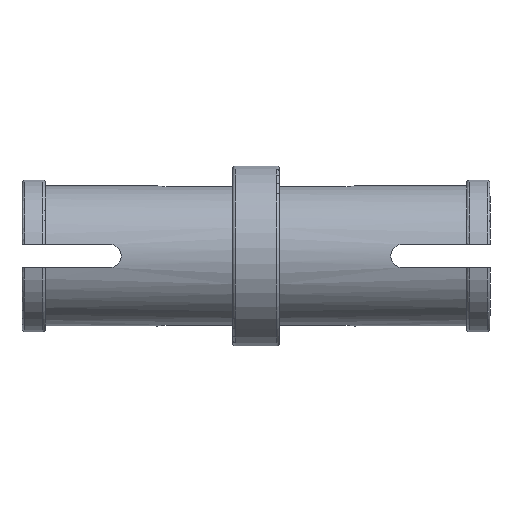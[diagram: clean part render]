
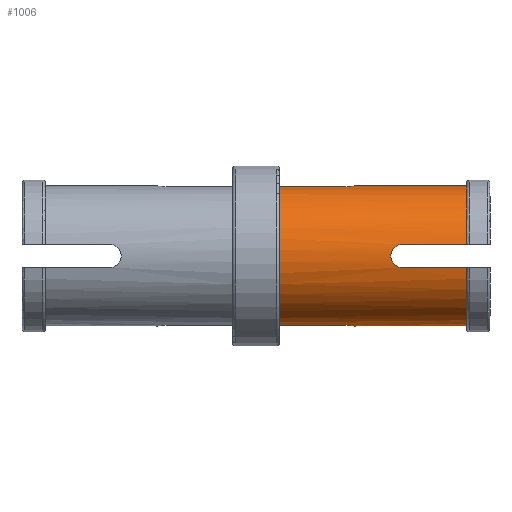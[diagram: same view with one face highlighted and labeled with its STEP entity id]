
A CAD part, front view. The second image highlights one B-rep face of the part: STEP entity #1006.
In plain terms, the highlighted cylindrical face has radius 2.4 mm (diameter 4.8 mm), a full revolution.
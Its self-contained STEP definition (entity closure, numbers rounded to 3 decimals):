
#40=B_SPLINE_CURVE_WITH_KNOTS('',3,(#1566,#1567,#1568,#1569,#1570),
 .UNSPECIFIED.,.F.,.F.,(4,1,4),(0.,0.001,0.001),
 .UNSPECIFIED.);
#41=B_SPLINE_CURVE_WITH_KNOTS('',3,(#1578,#1579,#1580,#1581,#1582),
 .UNSPECIFIED.,.F.,.F.,(4,1,4),(0.,0.001,0.001),
 .UNSPECIFIED.);
#42=B_SPLINE_CURVE_WITH_KNOTS('',3,(#1587,#1588,#1589,#1590,#1591),
 .UNSPECIFIED.,.F.,.F.,(4,1,4),(0.,0.001,0.001),
 .UNSPECIFIED.);
#43=B_SPLINE_CURVE_WITH_KNOTS('',3,(#1596,#1597,#1598,#1599,#1600),
 .UNSPECIFIED.,.F.,.F.,(4,1,4),(0.,0.001,0.001),
 .UNSPECIFIED.);
#76=CYLINDRICAL_SURFACE('',#1091,2.4);
#90=CIRCLE('',#1065,2.4);
#105=CIRCLE('',#1087,2.4);
#107=CIRCLE('',#1090,2.4);
#108=CIRCLE('',#1092,2.4);
#181=ORIENTED_EDGE('',*,*,#440,.F.);
#182=ORIENTED_EDGE('',*,*,#492,.T.);
#183=ORIENTED_EDGE('',*,*,#493,.T.);
#184=ORIENTED_EDGE('',*,*,#494,.T.);
#185=ORIENTED_EDGE('',*,*,#495,.F.);
#186=ORIENTED_EDGE('',*,*,#496,.T.);
#187=ORIENTED_EDGE('',*,*,#497,.T.);
#188=ORIENTED_EDGE('',*,*,#498,.T.);
#189=ORIENTED_EDGE('',*,*,#499,.F.);
#190=ORIENTED_EDGE('',*,*,#500,.F.);
#191=ORIENTED_EDGE('',*,*,#501,.F.);
#192=ORIENTED_EDGE('',*,*,#491,.T.);
#193=ORIENTED_EDGE('',*,*,#502,.F.);
#194=ORIENTED_EDGE('',*,*,#503,.F.);
#195=ORIENTED_EDGE('',*,*,#504,.F.);
#196=ORIENTED_EDGE('',*,*,#487,.T.);
#440=EDGE_CURVE('',#596,#593,#90,.T.);
#487=EDGE_CURVE('',#640,#642,#105,.T.);
#491=EDGE_CURVE('',#644,#646,#107,.T.);
#492=EDGE_CURVE('',#596,#647,#725,.F.);
#493=EDGE_CURVE('',#647,#648,#40,.T.);
#494=EDGE_CURVE('',#648,#649,#726,.T.);
#495=EDGE_CURVE('',#650,#649,#108,.T.);
#496=EDGE_CURVE('',#650,#651,#727,.F.);
#497=EDGE_CURVE('',#651,#652,#41,.T.);
#498=EDGE_CURVE('',#652,#593,#728,.T.);
#499=EDGE_CURVE('',#653,#642,#729,.F.);
#500=EDGE_CURVE('',#654,#653,#42,.T.);
#501=EDGE_CURVE('',#644,#654,#730,.T.);
#502=EDGE_CURVE('',#655,#646,#731,.F.);
#503=EDGE_CURVE('',#656,#655,#43,.T.);
#504=EDGE_CURVE('',#640,#656,#732,.T.);
#593=VERTEX_POINT('',#1415);
#596=VERTEX_POINT('',#1420);
#640=VERTEX_POINT('',#1548);
#642=VERTEX_POINT('',#1552);
#644=VERTEX_POINT('',#1557);
#646=VERTEX_POINT('',#1561);
#647=VERTEX_POINT('',#1565);
#648=VERTEX_POINT('',#1571);
#649=VERTEX_POINT('',#1573);
#650=VERTEX_POINT('',#1575);
#651=VERTEX_POINT('',#1577);
#652=VERTEX_POINT('',#1583);
#653=VERTEX_POINT('',#1586);
#654=VERTEX_POINT('',#1592);
#655=VERTEX_POINT('',#1595);
#656=VERTEX_POINT('',#1601);
#725=LINE('',#1564,#805);
#726=LINE('',#1572,#806);
#727=LINE('',#1576,#807);
#728=LINE('',#1584,#808);
#729=LINE('',#1585,#809);
#730=LINE('',#1593,#810);
#731=LINE('',#1594,#811);
#732=LINE('',#1602,#812);
#805=VECTOR('',#1240,1000.);
#806=VECTOR('',#1241,1000.);
#807=VECTOR('',#1244,1000.);
#808=VECTOR('',#1245,1000.);
#809=VECTOR('',#1246,1000.);
#810=VECTOR('',#1247,1000.);
#811=VECTOR('',#1248,1000.);
#812=VECTOR('',#1249,1000.);
#869=EDGE_LOOP('',(#181,#182,#183,#184,#185,#186,#187,#188));
#870=EDGE_LOOP('',(#189,#190,#191,#192,#193,#194,#195,#196));
#927=FACE_BOUND('',#869,.T.);
#928=FACE_BOUND('',#870,.T.);
#1006=ADVANCED_FACE('',(#927,#928),#76,.T.);
#1065=AXIS2_PLACEMENT_3D('',#1421,#1160,#1161);
#1087=AXIS2_PLACEMENT_3D('',#1553,#1228,#1229);
#1090=AXIS2_PLACEMENT_3D('',#1562,#1236,#1237);
#1091=AXIS2_PLACEMENT_3D('',#1563,#1238,#1239);
#1092=AXIS2_PLACEMENT_3D('',#1574,#1242,#1243);
#1160=DIRECTION('',(-1.,0.,0.));
#1161=DIRECTION('',(0.,0.,1.));
#1228=DIRECTION('',(-1.,0.,0.));
#1229=DIRECTION('',(0.,0.,1.));
#1236=DIRECTION('',(-1.,0.,0.));
#1237=DIRECTION('',(0.,0.,1.));
#1238=DIRECTION('',(-1.,0.,0.));
#1239=DIRECTION('',(0.,0.,1.));
#1240=DIRECTION('',(-1.,0.,0.));
#1241=DIRECTION('',(-1.,0.,0.));
#1242=DIRECTION('',(-1.,0.,0.));
#1243=DIRECTION('',(0.,0.,1.));
#1244=DIRECTION('',(-1.,0.,0.));
#1245=DIRECTION('',(-1.,0.,0.));
#1246=DIRECTION('',(-1.,0.,0.));
#1247=DIRECTION('',(-1.,0.,0.));
#1248=DIRECTION('',(-1.,0.,0.));
#1249=DIRECTION('',(-1.,0.,0.));
#1415=CARTESIAN_POINT('',(0.8,0.4,-2.366));
#1420=CARTESIAN_POINT('',(0.8,0.4,2.366));
#1421=CARTESIAN_POINT('',(0.8,0.,0.));
#1548=CARTESIAN_POINT('',(7.2,2.366,-0.4));
#1552=CARTESIAN_POINT('',(7.2,-2.366,-0.4));
#1553=CARTESIAN_POINT('',(7.2,0.,0.));
#1557=CARTESIAN_POINT('',(7.2,-2.366,0.4));
#1561=CARTESIAN_POINT('',(7.2,2.366,0.4));
#1562=CARTESIAN_POINT('',(7.2,0.,0.));
#1563=CARTESIAN_POINT('',(-60.,0.,0.));
#1564=CARTESIAN_POINT('',(-60.,0.4,2.366));
#1565=CARTESIAN_POINT('',(3.,0.4,2.366));
#1566=CARTESIAN_POINT('',(3.,0.4,2.366));
#1567=CARTESIAN_POINT('',(3.212,0.4,2.366));
#1568=CARTESIAN_POINT('',(3.588,0.001,2.434));
#1569=CARTESIAN_POINT('',(3.212,-0.4,2.366));
#1570=CARTESIAN_POINT('',(3.,-0.4,2.366));
#1571=CARTESIAN_POINT('',(3.,-0.4,2.366));
#1572=CARTESIAN_POINT('',(-60.,-0.4,2.366));
#1573=CARTESIAN_POINT('',(0.8,-0.4,2.366));
#1574=CARTESIAN_POINT('',(0.8,0.,0.));
#1575=CARTESIAN_POINT('',(0.8,-0.4,-2.366));
#1576=CARTESIAN_POINT('',(-60.,-0.4,-2.366));
#1577=CARTESIAN_POINT('',(3.,-0.4,-2.366));
#1578=CARTESIAN_POINT('',(3.,-0.4,-2.366));
#1579=CARTESIAN_POINT('',(3.212,-0.4,-2.366));
#1580=CARTESIAN_POINT('',(3.588,-0.001,-2.434));
#1581=CARTESIAN_POINT('',(3.212,0.4,-2.366));
#1582=CARTESIAN_POINT('',(3.,0.4,-2.366));
#1583=CARTESIAN_POINT('',(3.,0.4,-2.366));
#1584=CARTESIAN_POINT('',(-60.,0.4,-2.366));
#1585=CARTESIAN_POINT('',(-60.,-2.366,-0.4));
#1586=CARTESIAN_POINT('',(5.,-2.366,-0.4));
#1587=CARTESIAN_POINT('',(5.,-2.366,0.4));
#1588=CARTESIAN_POINT('',(4.788,-2.366,0.4));
#1589=CARTESIAN_POINT('',(4.412,-2.434,0.001));
#1590=CARTESIAN_POINT('',(4.788,-2.366,-0.4));
#1591=CARTESIAN_POINT('',(5.,-2.366,-0.4));
#1592=CARTESIAN_POINT('',(5.,-2.366,0.4));
#1593=CARTESIAN_POINT('',(-60.,-2.366,0.4));
#1594=CARTESIAN_POINT('',(-60.,2.366,0.4));
#1595=CARTESIAN_POINT('',(5.,2.366,0.4));
#1596=CARTESIAN_POINT('',(5.,2.366,-0.4));
#1597=CARTESIAN_POINT('',(4.788,2.366,-0.4));
#1598=CARTESIAN_POINT('',(4.412,2.434,-0.001));
#1599=CARTESIAN_POINT('',(4.788,2.366,0.4));
#1600=CARTESIAN_POINT('',(5.,2.366,0.4));
#1601=CARTESIAN_POINT('',(5.,2.366,-0.4));
#1602=CARTESIAN_POINT('',(-60.,2.366,-0.4));
